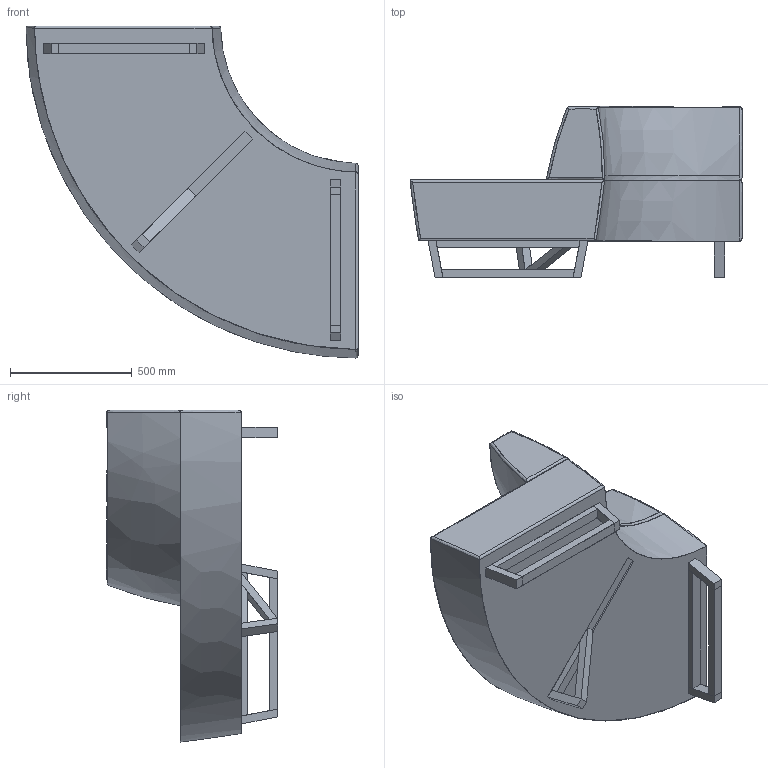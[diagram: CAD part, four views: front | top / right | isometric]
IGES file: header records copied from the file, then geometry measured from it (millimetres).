
Start section: SolidWorks IGES file using analytic representation for surfaces
Global section: file name: P:\3D CAD BLOCKS\us\90 DEGREE SEAT WITH SHORT BACK\us - 90 DEGREE SEAT WITH SHORT BACK.IGS; native system: SolidWorks 2012; preprocessor: SolidWorks 2012; author: adam; date: 140220.190631; units: millimetre
Bounding box: 1364.96 x 703.49 x 1364.96 mm (x, y, z)
Surface area: 5835414.6 mm2 (no closed solid volume)
Topology: 0 solids, 0 shells, 184 faces, 1564 edges, 1564 vertices
Faces by surface type: bspline 163, revolution 21
